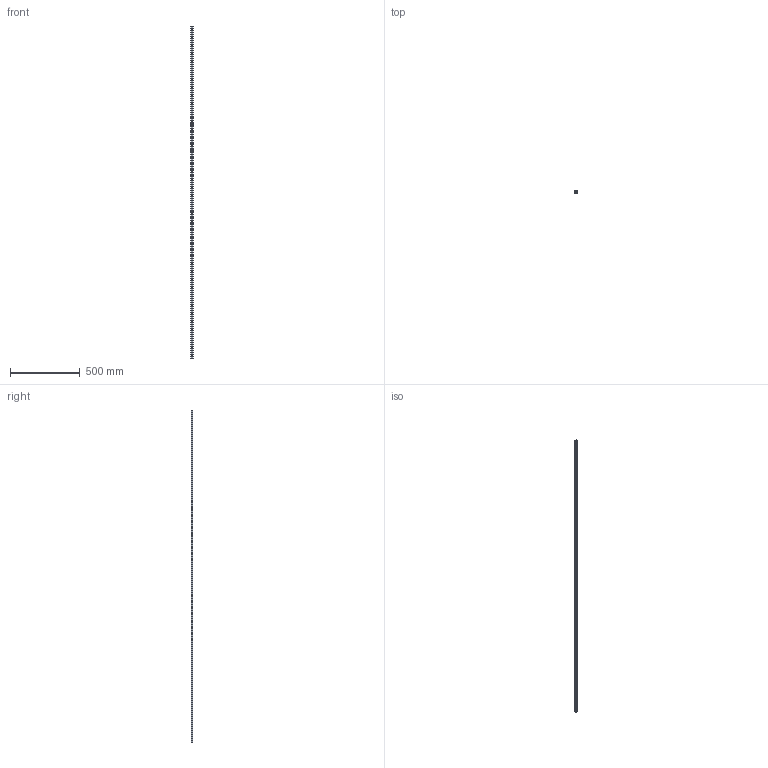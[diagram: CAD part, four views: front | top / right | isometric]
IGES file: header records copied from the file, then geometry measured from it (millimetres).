
Start section: SolidWorks IGES file using analytic representation for surfaces
Global section: file name: C:\Users\IanO\Desktop\L1016_v2\L1016.BL15_v2\L1016.BL15_v2_20190611_IGES\L1016.BL15-2380.igs; native system: SolidWorks 2017; preprocessor: SolidWorks 2017; author: IanO; date: 190612.123205; units: millimetre
Bounding box: 15 x 13 x 2380 mm (x, y, z)
Surface area: 145437.6 mm2 (no closed solid volume)
Topology: 0 solids, 0 shells, 226 faces, 5912 edges, 5912 vertices
Faces by surface type: revolution 164, bspline 62
